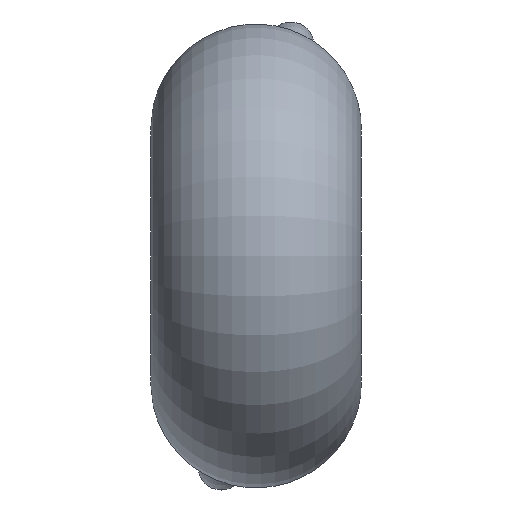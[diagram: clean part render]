
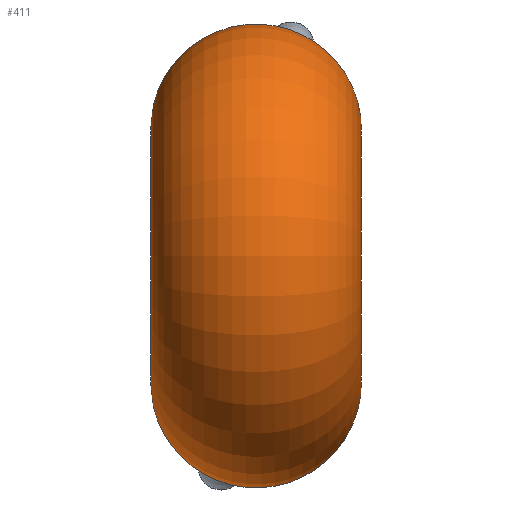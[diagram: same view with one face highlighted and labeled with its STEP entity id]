
A CAD part, left-side view. The second image highlights one B-rep face of the part: STEP entity #411.
In plain terms, the highlighted toroidal (fillet/blend) face has major radius 3 mm and minor radius 2.5 mm.
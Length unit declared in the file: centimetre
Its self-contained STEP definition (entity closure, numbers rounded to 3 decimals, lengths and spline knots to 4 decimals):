
#144=CARTESIAN_POINT('',(0.3773,0.0089,-0.3949));
#145=VERTEX_POINT('',#144);
#188=CARTESIAN_POINT('',(0.316,0.0926,-0.4462));
#189=VERTEX_POINT('',#188);
#197=CARTESIAN_POINT('',(0.4205,0.0014,-0.3463));
#198=VERTEX_POINT('',#197);
#199=CARTESIAN_POINT('',(0.316,0.0926,-0.4462));
#200=CARTESIAN_POINT('',(0.3122,0.1066,-0.4461));
#201=CARTESIAN_POINT('',(0.3101,0.1208,-0.4431));
#202=CARTESIAN_POINT('',(0.3098,0.1342,-0.4377));
#203=CARTESIAN_POINT('',(0.3095,0.1476,-0.4323));
#204=CARTESIAN_POINT('',(0.311,0.1601,-0.4244));
#205=CARTESIAN_POINT('',(0.3138,0.1712,-0.4146));
#206=CARTESIAN_POINT('',(0.3196,0.1935,-0.3951));
#207=CARTESIAN_POINT('',(0.3313,0.2101,-0.3683));
#208=CARTESIAN_POINT('',(0.3493,0.2177,-0.3403));
#209=CARTESIAN_POINT('',(0.3584,0.2214,-0.3263));
#210=CARTESIAN_POINT('',(0.369,0.223,-0.312));
#211=CARTESIAN_POINT('',(0.3806,0.2216,-0.2992));
#212=CARTESIAN_POINT('',(0.3864,0.221,-0.2927));
#213=CARTESIAN_POINT('',(0.3925,0.2196,-0.2866));
#214=CARTESIAN_POINT('',(0.3986,0.2176,-0.2811));
#215=CARTESIAN_POINT('',(0.4047,0.2155,-0.2755));
#216=CARTESIAN_POINT('',(0.4109,0.2128,-0.2705));
#217=CARTESIAN_POINT('',(0.4169,0.2095,-0.266));
#218=CARTESIAN_POINT('',(0.4289,0.2029,-0.2571));
#219=CARTESIAN_POINT('',(0.4403,0.1939,-0.2504));
#220=CARTESIAN_POINT('',(0.4502,0.1833,-0.246));
#221=CARTESIAN_POINT('',(0.4601,0.1727,-0.2415));
#222=CARTESIAN_POINT('',(0.4684,0.1605,-0.2393));
#223=CARTESIAN_POINT('',(0.4745,0.1474,-0.2389));
#224=CARTESIAN_POINT('',(0.4869,0.1213,-0.2382));
#225=CARTESIAN_POINT('',(0.4906,0.0915,-0.2454));
#226=CARTESIAN_POINT('',(0.4846,0.066,-0.2596));
#227=CARTESIAN_POINT('',(0.4786,0.0405,-0.2738));
#228=CARTESIAN_POINT('',(0.4628,0.0193,-0.2952));
#229=CARTESIAN_POINT('',(0.4428,0.0087,-0.3197));
#230=CARTESIAN_POINT('',(0.4358,0.005,-0.3283));
#231=CARTESIAN_POINT('',(0.4282,0.0025,-0.3373));
#232=CARTESIAN_POINT('',(0.4205,0.0014,-0.3463));
#233=B_SPLINE_CURVE_WITH_KNOTS('',3,(#199,#200,#201,#202,#203,#204,#205,#206,#207,#208,#209,#210,#211,#212,#213,#214,#215,#216,#217,#218,#219,#220,#221,#222,#223,#224,#225,#226,#227,#228,#229,#230,#231,#232),.UNSPECIFIED.,.F.,.U.,(4,3,3,3,3,3,3,3,3,3,3,4),(0.085,0.1067,0.1285,0.1719,0.1936,0.2045,0.2154,0.2371,0.2588,0.3023,0.3457,0.361),.UNSPECIFIED.);
#234=EDGE_CURVE('',#189,#198,#233,.T.);
#236=CARTESIAN_POINT('',(0.4205,0.0014,-0.3463));
#237=CARTESIAN_POINT('',(0.4172,0.001,-0.3501));
#238=CARTESIAN_POINT('',(0.4027,0.,-0.3669));
#239=CARTESIAN_POINT('',(0.388,0.0035,-0.3833));
#240=CARTESIAN_POINT('',(0.3773,0.0089,-0.3949));
#241=B_SPLINE_CURVE_WITH_KNOTS('',3,(#236,#237,#238,#239,#240),.UNSPECIFIED.,.F.,.U.,(4,1,4),(0.0,0.0065,0.0282),.UNSPECIFIED.);
#242=EDGE_CURVE('',#198,#145,#241,.T.);
#274=CARTESIAN_POINT('',(0.3773,0.0089,-0.3949));
#275=CARTESIAN_POINT('',(0.3632,0.0159,-0.41));
#276=CARTESIAN_POINT('',(0.3373,0.039,-0.4364));
#277=CARTESIAN_POINT('',(0.321,0.0744,-0.4463));
#278=CARTESIAN_POINT('',(0.316,0.0926,-0.4462));
#279=B_SPLINE_CURVE_WITH_KNOTS('',3,(#274,#275,#276,#277,#278),.UNSPECIFIED.,.F.,.U.,(4,1,4),(0.,0.1805,0.361),.UNSPECIFIED.);
#280=EDGE_CURVE('',#145,#189,#279,.T.);
#321=CARTESIAN_POINT('',(0.0,0.0525,0.0));
#322=DIRECTION('',(0.0,1.0,0.0));
#323=DIRECTION('',(1.0,0.0,0.0));
#324=AXIS2_PLACEMENT_3D('',#321,#322,#323);
#325=TOROIDAL_SURFACE('',#324,0.3,0.25);
#326=CARTESIAN_POINT('',(0.4205,0.1036,0.3463));
#327=VERTEX_POINT('',#326);
#328=CARTESIAN_POINT('',(0.3773,0.0961,0.3949));
#329=VERTEX_POINT('',#328);
#330=CARTESIAN_POINT('',(0.4205,0.1036,0.3463));
#331=CARTESIAN_POINT('',(0.4172,0.104,0.3501));
#332=CARTESIAN_POINT('',(0.4027,0.105,0.3669));
#333=CARTESIAN_POINT('',(0.388,0.1015,0.3833));
#334=CARTESIAN_POINT('',(0.3773,0.0961,0.3949));
#335=B_SPLINE_CURVE_WITH_KNOTS('',3,(#330,#331,#332,#333,#334),.UNSPECIFIED.,.F.,.U.,(4,1,4),(0.0,0.0065,0.0282),.UNSPECIFIED.);
#336=EDGE_CURVE('',#327,#329,#335,.T.);
#337=ORIENTED_EDGE('',*,*,#336,.F.);
#338=CARTESIAN_POINT('',(0.316,0.0124,0.4462));
#339=VERTEX_POINT('',#338);
#340=CARTESIAN_POINT('',(0.316,0.0124,0.4462));
#341=CARTESIAN_POINT('',(0.3122,-0.0016,0.4461));
#342=CARTESIAN_POINT('',(0.3101,-0.0158,0.4431));
#343=CARTESIAN_POINT('',(0.3098,-0.0292,0.4377));
#344=CARTESIAN_POINT('',(0.3095,-0.0426,0.4323));
#345=CARTESIAN_POINT('',(0.311,-0.0551,0.4244));
#346=CARTESIAN_POINT('',(0.3139,-0.0662,0.4146));
#347=CARTESIAN_POINT('',(0.3197,-0.0885,0.3951));
#348=CARTESIAN_POINT('',(0.3314,-0.1051,0.3683));
#349=CARTESIAN_POINT('',(0.3494,-0.1126,0.3403));
#350=CARTESIAN_POINT('',(0.3584,-0.1164,0.3263));
#351=CARTESIAN_POINT('',(0.369,-0.118,0.312));
#352=CARTESIAN_POINT('',(0.3806,-0.1167,0.2992));
#353=CARTESIAN_POINT('',(0.3922,-0.1153,0.2863));
#354=CARTESIAN_POINT('',(0.4049,-0.1112,0.2749));
#355=CARTESIAN_POINT('',(0.417,-0.1046,0.266));
#356=CARTESIAN_POINT('',(0.429,-0.098,0.257));
#357=CARTESIAN_POINT('',(0.4404,-0.0889,0.2504));
#358=CARTESIAN_POINT('',(0.4502,-0.0783,0.246));
#359=CARTESIAN_POINT('',(0.4601,-0.0678,0.2415));
#360=CARTESIAN_POINT('',(0.4684,-0.0556,0.2392));
#361=CARTESIAN_POINT('',(0.4746,-0.0425,0.2389));
#362=CARTESIAN_POINT('',(0.4869,-0.0163,0.2382));
#363=CARTESIAN_POINT('',(0.4905,0.0135,0.2453));
#364=CARTESIAN_POINT('',(0.4845,0.039,0.2596));
#365=CARTESIAN_POINT('',(0.4785,0.0645,0.2738));
#366=CARTESIAN_POINT('',(0.4628,0.0857,0.2952));
#367=CARTESIAN_POINT('',(0.4428,0.0963,0.3197));
#368=CARTESIAN_POINT('',(0.4358,0.1,0.3283));
#369=CARTESIAN_POINT('',(0.4282,0.1025,0.3373));
#370=CARTESIAN_POINT('',(0.4205,0.1036,0.3463));
#371=B_SPLINE_CURVE_WITH_KNOTS('',3,(#340,#341,#342,#343,#344,#345,#346,#347,#348,#349,#350,#351,#352,#353,#354,#355,#356,#357,#358,#359,#360,#361,#362,#363,#364,#365,#366,#367,#368,#369,#370),.UNSPECIFIED.,.F.,.U.,(4,3,3,3,3,3,3,3,3,3,4),(0.085,0.1067,0.1285,0.1719,0.1936,0.2154,0.2371,0.2588,0.3023,0.3457,0.361),.UNSPECIFIED.);
#372=EDGE_CURVE('',#339,#327,#371,.T.);
#373=ORIENTED_EDGE('',*,*,#372,.F.);
#374=CARTESIAN_POINT('',(0.3773,0.0961,0.3949));
#375=CARTESIAN_POINT('',(0.3632,0.0891,0.41));
#376=CARTESIAN_POINT('',(0.3373,0.066,0.4364));
#377=CARTESIAN_POINT('',(0.321,0.0306,0.4463));
#378=CARTESIAN_POINT('',(0.316,0.0124,0.4462));
#379=B_SPLINE_CURVE_WITH_KNOTS('',3,(#374,#375,#376,#377,#378),.UNSPECIFIED.,.F.,.U.,(4,1,4),(0.,0.1805,0.361),.UNSPECIFIED.);
#380=EDGE_CURVE('',#329,#339,#379,.T.);
#381=ORIENTED_EDGE('',*,*,#380,.F.);
#382=EDGE_LOOP('',(#337,#373,#381));
#383=FACE_OUTER_BOUND('',#382,.T.);
#384=CARTESIAN_POINT('',(0.3,-0.1975,0.));
#385=VERTEX_POINT('',#384);
#386=CARTESIAN_POINT('',(0.0,-0.1975,0.0));
#387=DIRECTION('',(0.0,1.0,0.0));
#388=DIRECTION('',(-1.0,0.0,0.0));
#389=AXIS2_PLACEMENT_3D('',#386,#387,#388);
#390=CIRCLE('',#389,0.3);
#391=EDGE_CURVE('',#385,#385,#390,.T.);
#392=ORIENTED_EDGE('',*,*,#391,.T.);
#393=EDGE_LOOP('',(#392));
#394=FACE_BOUND('',#393,.T.);
#395=CARTESIAN_POINT('',(0.3,0.3025,0.));
#396=VERTEX_POINT('',#395);
#397=CARTESIAN_POINT('',(0.0,0.3025,0.0));
#398=DIRECTION('',(0.0,-1.0,0.0));
#399=DIRECTION('',(-1.0,0.0,0.0));
#400=AXIS2_PLACEMENT_3D('',#397,#398,#399);
#401=CIRCLE('',#400,0.3);
#402=EDGE_CURVE('',#396,#396,#401,.T.);
#403=ORIENTED_EDGE('',*,*,#402,.T.);
#404=EDGE_LOOP('',(#403));
#405=FACE_BOUND('',#404,.T.);
#406=ORIENTED_EDGE('',*,*,#242,.F.);
#407=ORIENTED_EDGE('',*,*,#234,.F.);
#408=ORIENTED_EDGE('',*,*,#280,.F.);
#409=EDGE_LOOP('',(#406,#407,#408));
#410=FACE_BOUND('',#409,.T.);
#411=ADVANCED_FACE('',(#383,#394,#405,#410),#325,.T.);
